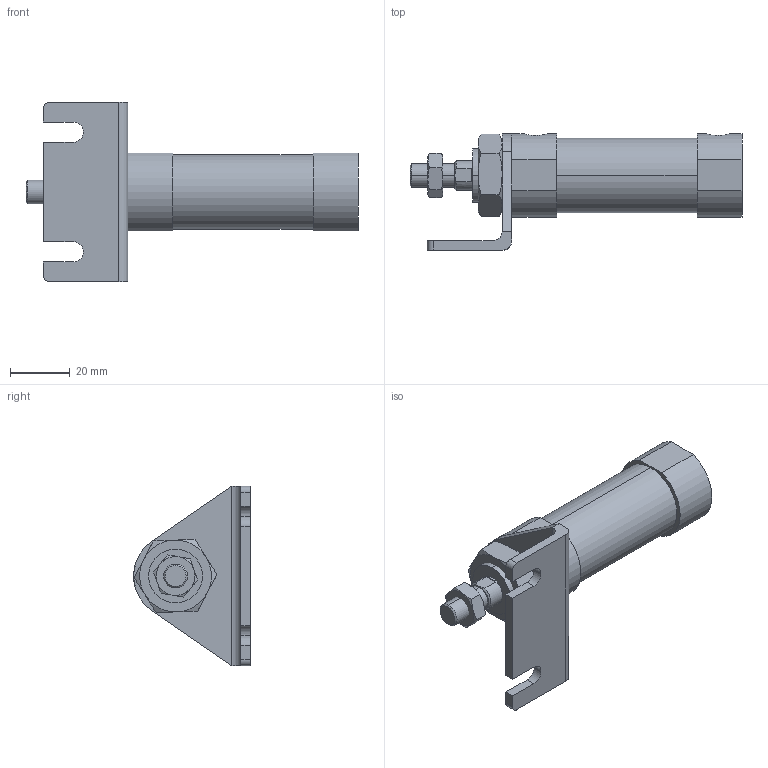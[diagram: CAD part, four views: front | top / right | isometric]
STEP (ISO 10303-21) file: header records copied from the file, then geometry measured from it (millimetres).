
FILE_DESCRIPTION (( 'STEP AP203' ), '1' );
FILE_NAME ('JGND2-20-15-L.STEP', '2016-08-04T02:20:02', ( '' ), ( '' ), 'SwSTEP 2.0', 'SolidWorks 2014', '' );
FILE_SCHEMA (( 'CONFIG_CONTROL_DESIGN' ));
Length unit declared in the file: millimetre
Products named in the file (5): J#2-20-15(P); JGND2-20-15-L; J#2-20-L
Assembly tree (4 placements, depth 2):
  JGND2-20-15-L
    J#2-20-15(P)
    (unnamed)
    (unnamed)
    J#2-20-L
Bounding box: 111 x 39 x 60 mm (x, y, z)
Volume: 55349 mm3; surface area: 18013.4 mm2
Topology: 4 solids, 4 shells, 111 faces, 255 edges, 160 vertices
Faces by surface type: plane 49, cylinder 34, torus 24, cone 4
Entity records: 4004 total; most frequent: CARTESIAN_POINT 989, DIRECTION 531, ORIENTED_EDGE 510, EDGE_CURVE 255, AXIS2_PLACEMENT_3D 214, VERTEX_POINT 160, EDGE_LOOP 125, FACE_OUTER_BOUND 111
